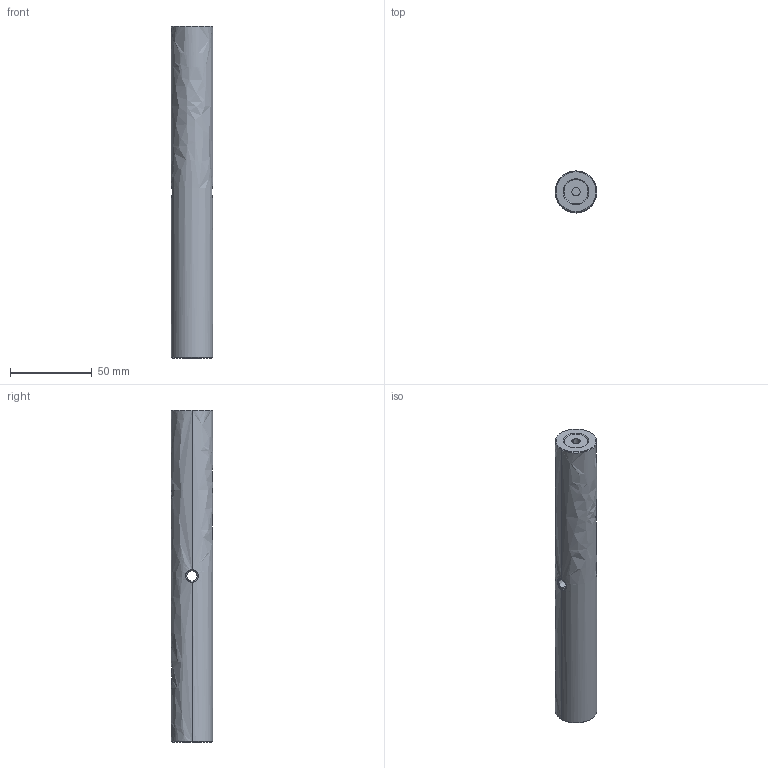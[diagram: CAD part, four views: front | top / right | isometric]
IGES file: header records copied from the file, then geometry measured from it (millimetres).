
Start section: 3D InterOp IGES (Version 21 0 3), Spatial Corp. Copyright (c) 1999-2007.
Global section: file name: export0.igs; native system: Spatial Corp.; preprocessor: 3D InterOp ACIS/IGES; author: Noname; organization: Noname; date: 20140203.222536; units: centimetre
Bounding box: 25.4 x 25.4 x 203.2 mm (x, y, z)
Surface area: 18422.9 mm2 (no closed solid volume)
Topology: 0 solids, 0 shells, 26 faces, 124 edges, 124 vertices
Faces by surface type: revolution 16, extrusion 6, bspline 4
